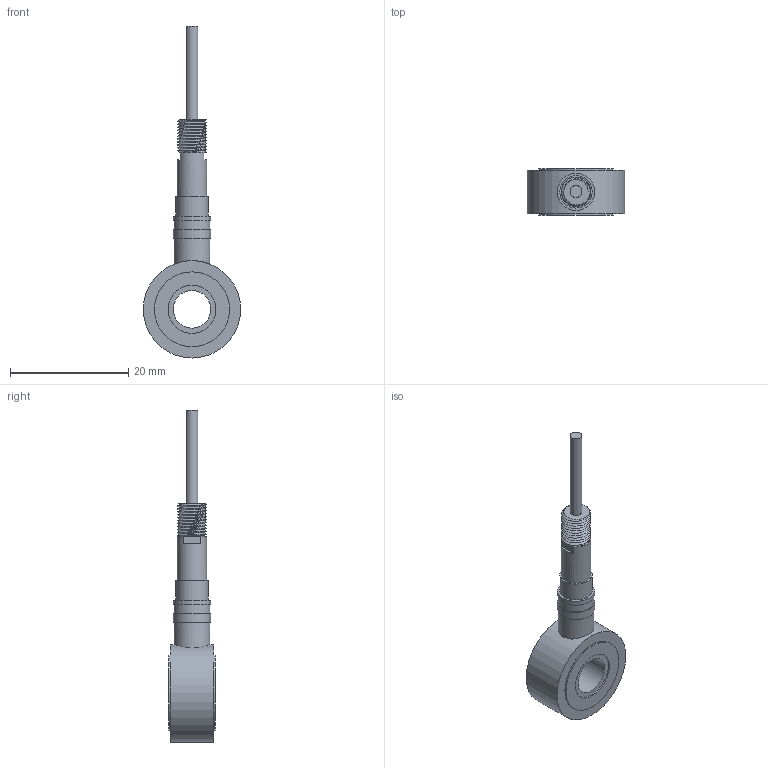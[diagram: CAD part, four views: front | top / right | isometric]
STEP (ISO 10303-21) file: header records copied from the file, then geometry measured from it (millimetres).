
FILE_DESCRIPTION (( 'STEP AP214' ), '1' );
FILE_NAME ('211B Load Washer w conector.STEP', '2017-08-23T19:22:11', ( '' ), ( '' ), 'SwSTEP 2.0', 'SolidWorks 2017', '' );
FILE_SCHEMA (( 'AUTOMOTIVE_DESIGN' ));
Length unit declared in the file: millimetre
Products named in the file (3): 211B Load Washer w conector; 211B Load Washer; 1645 M4 Connector
Assembly tree (2 placements, depth 2):
  211B Load Washer w conector
    211B Load Washer
    1645 M4 Connector
Bounding box: 16.5 x 7.87 x 56.25 mm (x, y, z)
Volume: 1922.4 mm3; surface area: 1711.4 mm2
Topology: 2 solids, 2 shells, 51 faces, 101 edges, 67 vertices
Faces by surface type: plane 26, cylinder 18, bspline 5, cone 2
Full cylindrical faces by diameter (mm): 0.432 x1, 0.6 x1, 2 x1, 4.3 x1, 5 x1, 5.5 x1, 6.08 x2, 6.3 x2, 6.375 x1, 8.128 x2, 12.7 x2, 16.5 x1
Entity records: 3647 total; most frequent: CARTESIAN_POINT 2405, DIRECTION 192, ORIENTED_EDGE 146, AXIS2_PLACEMENT_3D 90, EDGE_LOOP 83, EDGE_CURVE 73, FACE_OUTER_BOUND 66, VERTEX_POINT 58
